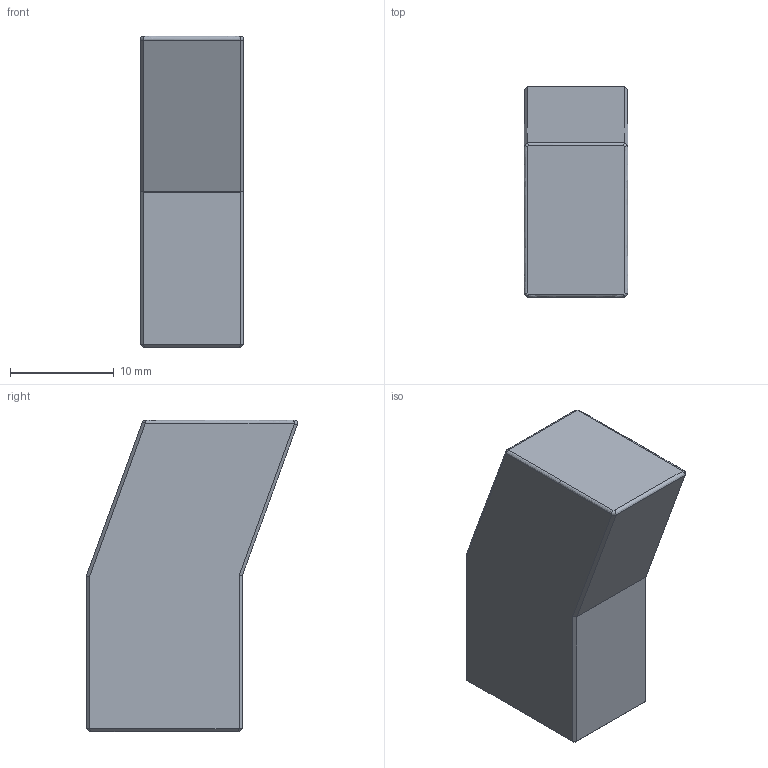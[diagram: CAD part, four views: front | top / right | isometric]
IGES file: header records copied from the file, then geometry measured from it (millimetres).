
Global section: file name: E:\UnigraphicsGraphicData\MISUMI_MOLD-PARTS\NX\3d_ance15_b10_l30_k20_00924_r00.igs; native system: NX V5.0; preprocessor: UGS NX IGES V5.0; author: MISUMI; date: 20101115.182446; units: millimetre
Bounding box: 10 x 20.33 x 30 mm (x, y, z)
Surface area: 2208.8 mm2 (no closed solid volume)
Topology: 0 solids, 0 shells, 37 faces, 207 edges, 206 vertices
Faces by surface type: bspline 37
